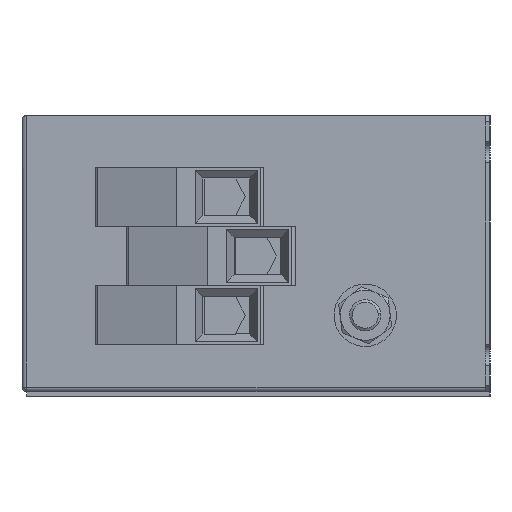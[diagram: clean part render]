
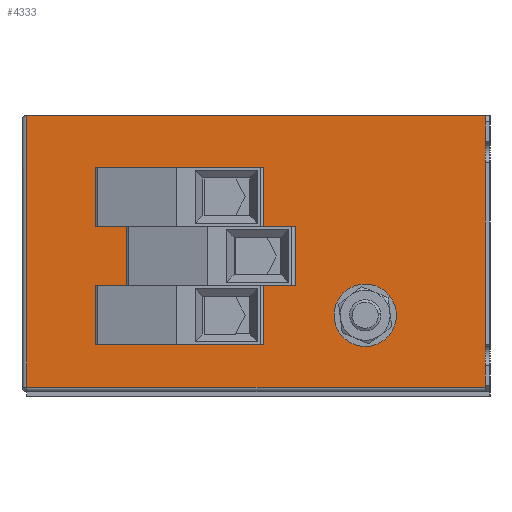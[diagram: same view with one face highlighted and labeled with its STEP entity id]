
A CAD part, left-side view. The second image highlights one B-rep face of the part: STEP entity #4333.
In plain terms, the highlighted planar face has unit normal (-1, 0, 0).
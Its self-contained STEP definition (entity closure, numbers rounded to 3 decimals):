
#5 = VERTEX_POINT ( 'NONE', #5772 ) ;
#123 = DIRECTION ( 'NONE',  ( -1., 0., 0. ) ) ;
#172 = AXIS2_PLACEMENT_3D ( 'NONE', #4245, #6196, #6231 ) ;
#176 = CARTESIAN_POINT ( 'NONE',  ( 15., 148.5, 0. ) ) ;
#258 = DIRECTION ( 'NONE',  ( -1., 0., 0. ) ) ;
#261 = CARTESIAN_POINT ( 'NONE',  ( 15., 148.5, -87. ) ) ;
#436 = AXIS2_PLACEMENT_3D ( 'NONE', #5050, #6275, #3062 ) ;
#526 = AXIS2_PLACEMENT_3D ( 'NONE', #4672, #821, #7249 ) ;
#587 = EDGE_CURVE ( 'NONE', #5310, #1357, #1823, .T. ) ;
#681 = DIRECTION ( 'NONE',  ( 0., 0., -1. ) ) ;
#805 = DIRECTION ( 'NONE',  ( 0., 0., -1. ) ) ;
#821 = DIRECTION ( 'NONE',  ( 1., 0., 0. ) ) ;
#822 = CARTESIAN_POINT ( 'NONE',  ( 15., 71., -47.1 ) ) ;
#1022 = PLANE ( 'NONE',  #526 ) ;
#1140 = AXIS2_PLACEMENT_3D ( 'NONE', #3470, #258, #805 ) ;
#1141 = DIRECTION ( 'NONE',  ( 0., 0., -1. ) ) ;
#1203 = CARTESIAN_POINT ( 'NONE',  ( 15., 148.5, 0. ) ) ;
#1270 = DIRECTION ( 'NONE',  ( -1., 0., 0. ) ) ;
#1357 = VERTEX_POINT ( 'NONE', #5817 ) ;
#1468 = CIRCLE ( 'NONE', #2554, 2.1 ) ;
#1788 = VECTOR ( 'NONE', #7853, 1000. ) ;
#1823 = CIRCLE ( 'NONE', #1140, 2.1 ) ;
#2018 = DIRECTION ( 'NONE',  ( -1., 0., 0. ) ) ;
#2094 = CARTESIAN_POINT ( 'NONE',  ( 15., 81., -23.9 ) ) ;
#2132 = EDGE_LOOP ( 'NONE', ( #7523, #4197 ) ) ;
#2242 = ORIENTED_EDGE ( 'NONE', *, *, #4587, .F. ) ;
#2317 = CARTESIAN_POINT ( 'NONE',  ( 15., 150., -87. ) ) ;
#2421 = DIRECTION ( 'NONE',  ( 0., 0., -1. ) ) ;
#2554 = AXIS2_PLACEMENT_3D ( 'NONE', #3935, #123, #5124 ) ;
#2670 = AXIS2_PLACEMENT_3D ( 'NONE', #4348, #7514, #1141 ) ;
#2674 = CARTESIAN_POINT ( 'NONE',  ( 15., 71., -42.9 ) ) ;
#2741 = FACE_OUTER_BOUND ( 'NONE', #6826, .T. ) ;
#2766 = VERTEX_POINT ( 'NONE', #5181 ) ;
#2777 = VERTEX_POINT ( 'NONE', #1203 ) ;
#2818 = AXIS2_PLACEMENT_3D ( 'NONE', #3085, #6847, #2421 ) ;
#2913 = LINE ( 'NONE', #2317, #8173 ) ;
#2936 = FACE_BOUND ( 'NONE', #7197, .T. ) ;
#3062 = DIRECTION ( 'NONE',  ( 0., 0., -1. ) ) ;
#3067 = EDGE_CURVE ( 'NONE', #7044, #2777, #6024, .T. ) ;
#3085 = CARTESIAN_POINT ( 'NONE',  ( 15., 71., -45. ) ) ;
#3257 = ORIENTED_EDGE ( 'NONE', *, *, #587, .F. ) ;
#3470 = CARTESIAN_POINT ( 'NONE',  ( 15., 81., -64. ) ) ;
#3476 = CARTESIAN_POINT ( 'NONE',  ( 15., 1.5, 0. ) ) ;
#3525 = CARTESIAN_POINT ( 'NONE',  ( 15., 81., -28.1 ) ) ;
#3935 = CARTESIAN_POINT ( 'NONE',  ( 15., 81., -64. ) ) ;
#4032 = EDGE_CURVE ( 'NONE', #2766, #7044, #2913, .T. ) ;
#4197 = ORIENTED_EDGE ( 'NONE', *, *, #4809, .F. ) ;
#4222 = CARTESIAN_POINT ( 'NONE',  ( 15., 150., 0. ) ) ;
#4245 = CARTESIAN_POINT ( 'NONE',  ( 15., 71., -45. ) ) ;
#4300 = CARTESIAN_POINT ( 'NONE',  ( 15., 81., -66.1 ) ) ;
#4333 = ADVANCED_FACE ( 'NONE', ( #2741, #4630, #2936, #6147, #4586 ), #1022, .F. ) ;
#4348 = CARTESIAN_POINT ( 'NONE',  ( 15., 40., -64. ) ) ;
#4424 = CARTESIAN_POINT ( 'NONE',  ( 15., 40., -64. ) ) ;
#4586 = FACE_BOUND ( 'NONE', #4702, .T. ) ;
#4587 = EDGE_CURVE ( 'NONE', #1357, #5310, #1468, .T. ) ;
#4589 = DIRECTION ( 'NONE',  ( 0., 0., -1. ) ) ;
#4630 = FACE_BOUND ( 'NONE', #5078, .T. ) ;
#4672 = CARTESIAN_POINT ( 'NONE',  ( 15., 150., 0. ) ) ;
#4702 = EDGE_LOOP ( 'NONE', ( #7741, #5779 ) ) ;
#4706 = DIRECTION ( 'NONE',  ( 0., 0., 1. ) ) ;
#4794 = EDGE_CURVE ( 'NONE', #7653, #7040, #5224, .T. ) ;
#4809 = EDGE_CURVE ( 'NONE', #7445, #5536, #4824, .T. ) ;
#4813 = AXIS2_PLACEMENT_3D ( 'NONE', #4424, #2018, #4589 ) ;
#4824 = CIRCLE ( 'NONE', #2818, 2.1 ) ;
#5050 = CARTESIAN_POINT ( 'NONE',  ( 15., 81., -26. ) ) ;
#5078 = EDGE_LOOP ( 'NONE', ( #6567, #6232 ) ) ;
#5124 = DIRECTION ( 'NONE',  ( 0., 0., -1. ) ) ;
#5150 = CIRCLE ( 'NONE', #172, 2.1 ) ;
#5181 = CARTESIAN_POINT ( 'NONE',  ( 15., 1.5, -87. ) ) ;
#5224 = CIRCLE ( 'NONE', #2670, 5.25 ) ;
#5289 = LINE ( 'NONE', #3476, #1788 ) ;
#5310 = VERTEX_POINT ( 'NONE', #4300 ) ;
#5330 = VECTOR ( 'NONE', #4706, 1000. ) ;
#5420 = EDGE_CURVE ( 'NONE', #7040, #7653, #7370, .T. ) ;
#5536 = VERTEX_POINT ( 'NONE', #822 ) ;
#5661 = LINE ( 'NONE', #4222, #7186 ) ;
#5772 = CARTESIAN_POINT ( 'NONE',  ( 15., 1.5, 0. ) ) ;
#5779 = ORIENTED_EDGE ( 'NONE', *, *, #7329, .F. ) ;
#5817 = CARTESIAN_POINT ( 'NONE',  ( 15., 81., -61.9 ) ) ;
#5824 = CIRCLE ( 'NONE', #7579, 2.1 ) ;
#5971 = ORIENTED_EDGE ( 'NONE', *, *, #7735, .T. ) ;
#6009 = VERTEX_POINT ( 'NONE', #2094 ) ;
#6024 = LINE ( 'NONE', #176, #5330 ) ;
#6099 = CARTESIAN_POINT ( 'NONE',  ( 15., 40., -69.25 ) ) ;
#6147 = FACE_BOUND ( 'NONE', #2132, .T. ) ;
#6165 = DIRECTION ( 'NONE',  ( 0., 1., 0. ) ) ;
#6196 = DIRECTION ( 'NONE',  ( -1., 0., 0. ) ) ;
#6231 = DIRECTION ( 'NONE',  ( 0., 0., -1. ) ) ;
#6232 = ORIENTED_EDGE ( 'NONE', *, *, #4794, .F. ) ;
#6275 = DIRECTION ( 'NONE',  ( -1., 0., 0. ) ) ;
#6476 = CARTESIAN_POINT ( 'NONE',  ( 15., 81., -26. ) ) ;
#6567 = ORIENTED_EDGE ( 'NONE', *, *, #5420, .F. ) ;
#6801 = DIRECTION ( 'NONE',  ( 0., 1., 0. ) ) ;
#6817 = EDGE_CURVE ( 'NONE', #7936, #6009, #7851, .T. ) ;
#6826 = EDGE_LOOP ( 'NONE', ( #6830, #8207, #7813, #5971 ) ) ;
#6830 = ORIENTED_EDGE ( 'NONE', *, *, #3067, .F. ) ;
#6847 = DIRECTION ( 'NONE',  ( -1., 0., 0. ) ) ;
#6892 = EDGE_CURVE ( 'NONE', #5536, #7445, #5150, .T. ) ;
#7040 = VERTEX_POINT ( 'NONE', #6099 ) ;
#7044 = VERTEX_POINT ( 'NONE', #261 ) ;
#7148 = EDGE_CURVE ( 'NONE', #5, #2766, #5289, .T. ) ;
#7186 = VECTOR ( 'NONE', #6801, 1000. ) ;
#7197 = EDGE_LOOP ( 'NONE', ( #3257, #2242 ) ) ;
#7249 = DIRECTION ( 'NONE',  ( 0., 0., -1. ) ) ;
#7329 = EDGE_CURVE ( 'NONE', #6009, #7936, #5824, .T. ) ;
#7370 = CIRCLE ( 'NONE', #4813, 5.25 ) ;
#7445 = VERTEX_POINT ( 'NONE', #2674 ) ;
#7514 = DIRECTION ( 'NONE',  ( -1., 0., 0. ) ) ;
#7523 = ORIENTED_EDGE ( 'NONE', *, *, #6892, .F. ) ;
#7579 = AXIS2_PLACEMENT_3D ( 'NONE', #6476, #1270, #681 ) ;
#7653 = VERTEX_POINT ( 'NONE', #8163 ) ;
#7735 = EDGE_CURVE ( 'NONE', #5, #2777, #5661, .T. ) ;
#7741 = ORIENTED_EDGE ( 'NONE', *, *, #6817, .F. ) ;
#7813 = ORIENTED_EDGE ( 'NONE', *, *, #7148, .F. ) ;
#7851 = CIRCLE ( 'NONE', #436, 2.1 ) ;
#7853 = DIRECTION ( 'NONE',  ( 0., 0., -1. ) ) ;
#7936 = VERTEX_POINT ( 'NONE', #3525 ) ;
#8163 = CARTESIAN_POINT ( 'NONE',  ( 15., 40., -58.75 ) ) ;
#8173 = VECTOR ( 'NONE', #6165, 1000. ) ;
#8207 = ORIENTED_EDGE ( 'NONE', *, *, #4032, .F. ) ;
